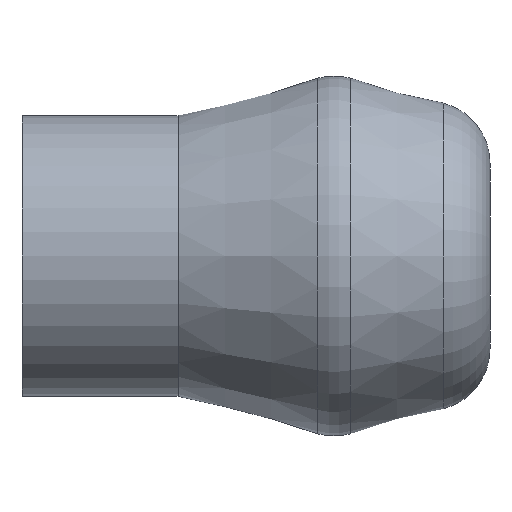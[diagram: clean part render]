
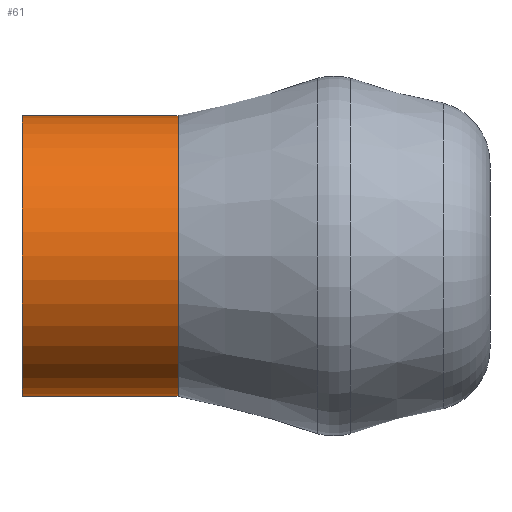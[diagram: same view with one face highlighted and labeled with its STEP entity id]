
A CAD part, left-side view. The second image highlights one B-rep face of the part: STEP entity #61.
In plain terms, the highlighted cylindrical face has radius 9 mm (diameter 18 mm), a full revolution.
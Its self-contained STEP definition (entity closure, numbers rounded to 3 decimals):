
#61=ADVANCED_FACE('',(#133,#135),#137,.T.);
#133=FACE_OUTER_BOUND('',#134,.T.);
#134=EDGE_LOOP('',(#246));
#135=FACE_BOUND('',#136,.T.);
#136=EDGE_LOOP('',(#247,#248,#249,#250,#251));
#137=CYLINDRICAL_SURFACE('',#138,9.);
#138=AXIS2_PLACEMENT_3D('',#139,#140,#141);
#139=CARTESIAN_POINT('',(0.,-46.,-81.));
#140=DIRECTION('',(0.,-1.,0.));
#141=DIRECTION('',(1.,0.,0.));
#246=ORIENTED_EDGE('',*,*,#312,.T.);
#247=ORIENTED_EDGE('',*,*,#310,.F.);
#248=ORIENTED_EDGE('',*,*,#306,.F.);
#249=ORIENTED_EDGE('',*,*,#297,.F.);
#250=ORIENTED_EDGE('',*,*,#311,.F.);
#251=ORIENTED_EDGE('',*,*,#308,.F.);
#297=EDGE_CURVE('',#342,#344,#345,.T.);
#306=EDGE_CURVE('',#344,#361,#362,.F.);
#308=EDGE_CURVE('',#364,#365,#366,.T.);
#310=EDGE_CURVE('',#361,#364,#368,.T.);
#311=EDGE_CURVE('',#365,#342,#369,.T.);
#312=EDGE_CURVE('',#370,#370,#371,.T.);
#342=VERTEX_POINT('',#432);
#344=VERTEX_POINT('',#436);
#345=CIRCLE('',#437,9.);
#361=VERTEX_POINT('',#473);
#362=LINE('',#474,#475);
#364=VERTEX_POINT('',#480);
#365=VERTEX_POINT('',#481);
#366=CIRCLE('',#482,9.);
#368=CIRCLE('',#489,9.);
#369=LINE('',#493,#494);
#370=VERTEX_POINT('',#496);
#371=CIRCLE('',#497,9.);
#432=CARTESIAN_POINT('',(0.,-56.,-72.));
#436=CARTESIAN_POINT('',(0.,-56.,-90.));
#437=AXIS2_PLACEMENT_3D('',#438,#439,#440);
#438=CARTESIAN_POINT('',(0.,-56.,-81.));
#439=DIRECTION('',(0.,-1.,0.));
#440=DIRECTION('',(0.,0.,1.));
#473=CARTESIAN_POINT('',(0.,-53.,-90.));
#474=CARTESIAN_POINT('',(0.,-53.,-90.));
#475=VECTOR('',#476,1.);
#476=DIRECTION('',(0.,-1.,0.));
#480=CARTESIAN_POINT('',(9.,-53.,-81.));
#481=CARTESIAN_POINT('',(0.,-53.,-72.));
#482=AXIS2_PLACEMENT_3D('',#483,#484,#485);
#483=CARTESIAN_POINT('',(0.,-53.,-81.));
#484=DIRECTION('',(0.,-1.,0.));
#485=DIRECTION('',(1.,0.,0.));
#489=AXIS2_PLACEMENT_3D('',#490,#491,#492);
#490=CARTESIAN_POINT('',(0.,-53.,-81.));
#491=DIRECTION('',(0.,-1.,0.));
#492=DIRECTION('',(0.,0.,-1.));
#493=CARTESIAN_POINT('',(0.,-53.,-72.));
#494=VECTOR('',#495,1.);
#495=DIRECTION('',(0.,-1.,0.));
#496=CARTESIAN_POINT('',(9.,-46.,-81.));
#497=AXIS2_PLACEMENT_3D('',#498,#499,#500);
#498=CARTESIAN_POINT('',(0.,-46.,-81.));
#499=DIRECTION('',(0.,-1.,0.));
#500=DIRECTION('',(1.,0.,0.));
